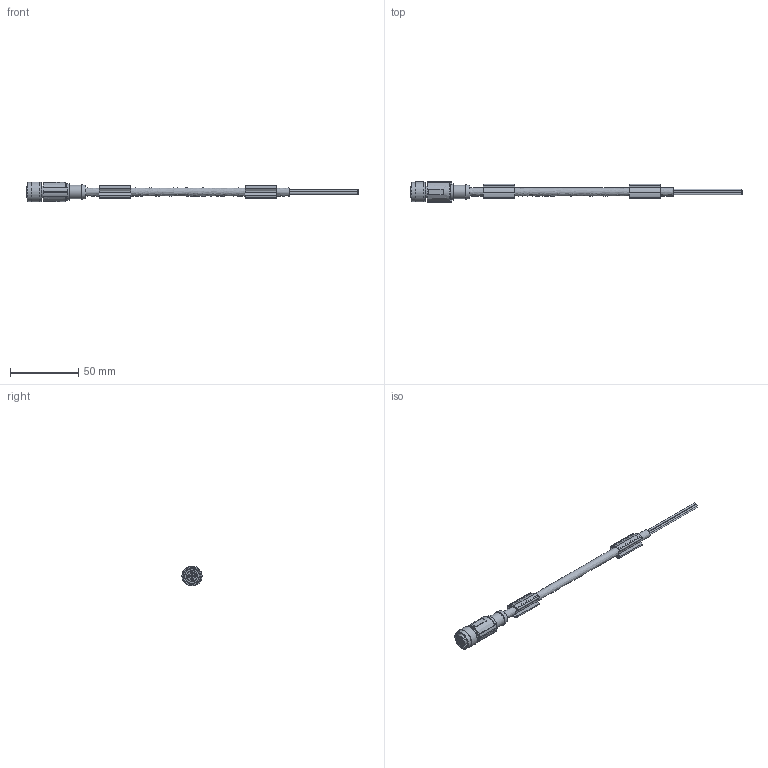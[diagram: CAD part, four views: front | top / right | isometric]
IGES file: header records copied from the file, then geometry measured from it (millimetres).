
Global section: file name: 153-13645_CI L5FGS-xM-PUR; native system: Autodesk Inventor 2018; preprocessor: unknown; author: ss; date: 20191106.120307; units: millimetre
Bounding box: 244 x 14.97 x 14.68 mm (x, y, z)
Volume: 10764 mm3; surface area: 9679.8 mm2
Topology: 1 solids, 1 shells, 193 faces, 538 edges, 365 vertices
Faces by surface type: bspline 193
